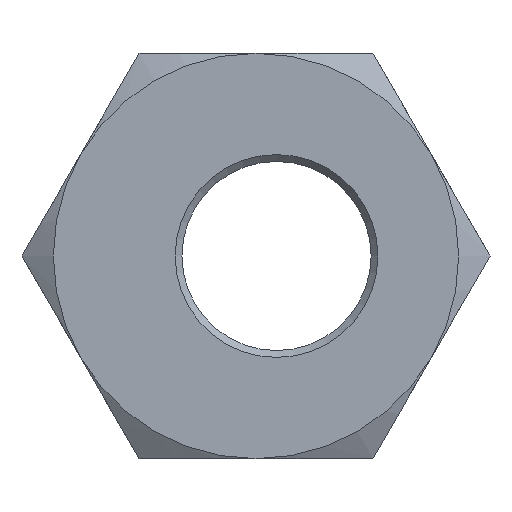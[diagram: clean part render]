
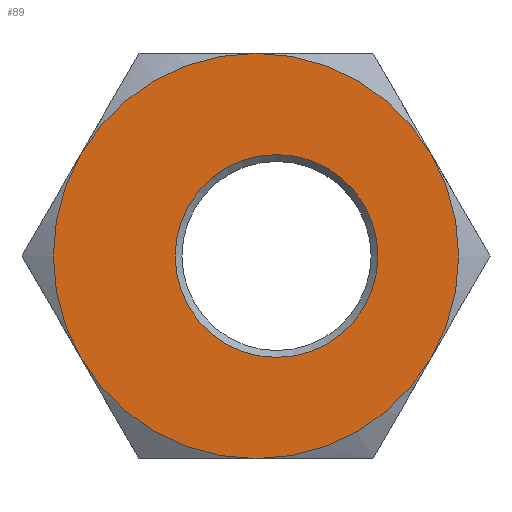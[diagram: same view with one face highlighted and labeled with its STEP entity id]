
A CAD part, left-side view. The second image highlights one B-rep face of the part: STEP entity #89.
In plain terms, the highlighted planar face has unit normal (-1, 0, 0).
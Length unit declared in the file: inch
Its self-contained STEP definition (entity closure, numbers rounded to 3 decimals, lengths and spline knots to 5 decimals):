
#89 = ADVANCED_FACE( '', ( #187, #188 ), #189, .F. );
#187 = FACE_OUTER_BOUND( '', #284, .T. );
#188 = FACE_BOUND( '', #285, .T. );
#189 = PLANE( '', #286 );
#284 = EDGE_LOOP( '', ( #449, #450, #451, #452, #453, #454 ) );
#285 = EDGE_LOOP( '', ( #455 ) );
#286 = AXIS2_PLACEMENT_3D( '', #456, #457, #458 );
#449 = ORIENTED_EDGE( '', *, *, #578, .F. );
#450 = ORIENTED_EDGE( '', *, *, #567, .F. );
#451 = ORIENTED_EDGE( '', *, *, #579, .F. );
#452 = ORIENTED_EDGE( '', *, *, #521, .F. );
#453 = ORIENTED_EDGE( '', *, *, #574, .F. );
#454 = ORIENTED_EDGE( '', *, *, #580, .F. );
#455 = ORIENTED_EDGE( '', *, *, #544, .T. );
#456 = CARTESIAN_POINT( '', ( 0., 0., 0. ) );
#457 = DIRECTION( '', ( 1., 0., 0. ) );
#458 = DIRECTION( '', ( 0., 0., -1. ) );
#521 = EDGE_CURVE( '', #600, #601, #602, .T. );
#544 = EDGE_CURVE( '', #636, #636, #637, .T. );
#567 = EDGE_CURVE( '', #668, #663, #672, .T. );
#574 = EDGE_CURVE( '', #679, #600, #681, .T. );
#578 = EDGE_CURVE( '', #663, #685, #686, .T. );
#579 = EDGE_CURVE( '', #601, #668, #687, .T. );
#580 = EDGE_CURVE( '', #685, #679, #688, .T. );
#600 = VERTEX_POINT( '', #709 );
#601 = VERTEX_POINT( '', #710 );
#602 = CIRCLE( '', #711, 0.59055 );
#636 = VERTEX_POINT( '', #802 );
#637 = CIRCLE( '', #803, 0.29559 );
#663 = VERTEX_POINT( '', #857 );
#668 = VERTEX_POINT( '', #881 );
#672 = CIRCLE( '', #899, 0.59055 );
#679 = VERTEX_POINT( '', #913 );
#681 = CIRCLE( '', #922, 0.59055 );
#685 = VERTEX_POINT( '', #926 );
#686 = CIRCLE( '', #927, 0.59055 );
#687 = CIRCLE( '', #928, 0.59055 );
#688 = CIRCLE( '', #929, 0.59055 );
#709 = CARTESIAN_POINT( '', ( 0., -0.51143, 0.29528 ) );
#710 = CARTESIAN_POINT( '', ( 0., -0.51143, -0.29528 ) );
#711 = AXIS2_PLACEMENT_3D( '', #976, #977, #978 );
#802 = CARTESIAN_POINT( '', ( 0., -0.05984, -0.29559 ) );
#803 = AXIS2_PLACEMENT_3D( '', #996, #997, #998 );
#857 = CARTESIAN_POINT( '', ( 0., 0.51143, -0.29528 ) );
#881 = CARTESIAN_POINT( '', ( 0., 0., -0.59055 ) );
#899 = AXIS2_PLACEMENT_3D( '', #1013, #1014, #1015 );
#913 = CARTESIAN_POINT( '', ( 0., 0., 0.59055 ) );
#922 = AXIS2_PLACEMENT_3D( '', #1019, #1020, #1021 );
#926 = CARTESIAN_POINT( '', ( 0., 0.51143, 0.29528 ) );
#927 = AXIS2_PLACEMENT_3D( '', #1025, #1026, #1027 );
#928 = AXIS2_PLACEMENT_3D( '', #1028, #1029, #1030 );
#929 = AXIS2_PLACEMENT_3D( '', #1031, #1032, #1033 );
#976 = CARTESIAN_POINT( '', ( 0., 0., 0. ) );
#977 = DIRECTION( '', ( 1., 0., 0. ) );
#978 = DIRECTION( '', ( 0., 0., -1. ) );
#996 = CARTESIAN_POINT( '', ( 0., -0.05984, 0. ) );
#997 = DIRECTION( '', ( 1., 0., 0. ) );
#998 = DIRECTION( '', ( 0., 0., -1. ) );
#1013 = CARTESIAN_POINT( '', ( 0., 0., 0. ) );
#1014 = DIRECTION( '', ( 1., 0., 0. ) );
#1015 = DIRECTION( '', ( 0., 0., -1. ) );
#1019 = CARTESIAN_POINT( '', ( 0., 0., 0. ) );
#1020 = DIRECTION( '', ( 1., 0., 0. ) );
#1021 = DIRECTION( '', ( 0., 0., -1. ) );
#1025 = CARTESIAN_POINT( '', ( 0., 0., 0. ) );
#1026 = DIRECTION( '', ( 1., 0., 0. ) );
#1027 = DIRECTION( '', ( 0., 0., -1. ) );
#1028 = CARTESIAN_POINT( '', ( 0., 0., 0. ) );
#1029 = DIRECTION( '', ( 1., 0., 0. ) );
#1030 = DIRECTION( '', ( 0., 0., -1. ) );
#1031 = CARTESIAN_POINT( '', ( 0., 0., 0. ) );
#1032 = DIRECTION( '', ( 1., 0., 0. ) );
#1033 = DIRECTION( '', ( 0., 0., -1. ) );
